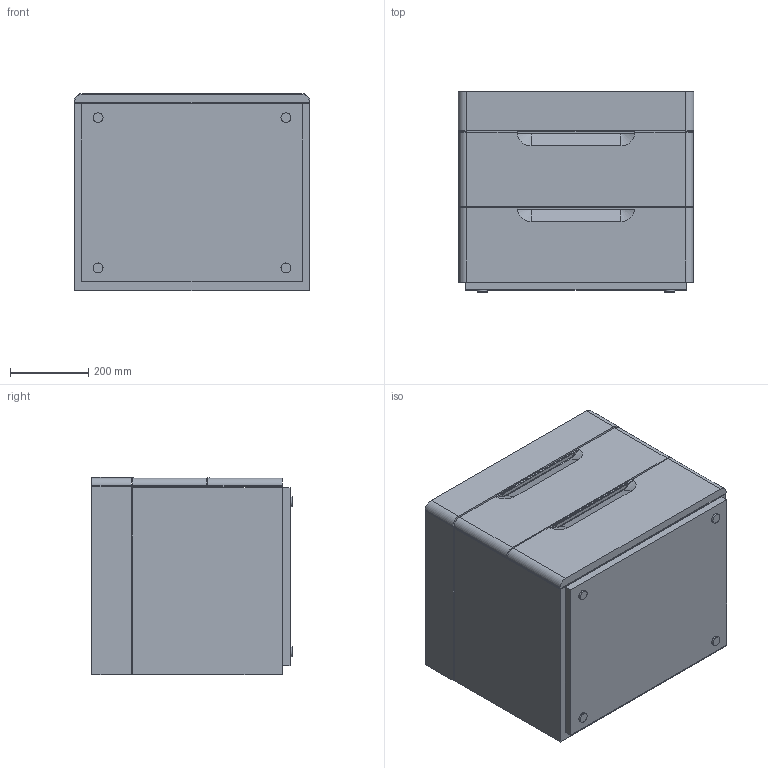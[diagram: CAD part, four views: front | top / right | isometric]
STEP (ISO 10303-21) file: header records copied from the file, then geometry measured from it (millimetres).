
FILE_DESCRIPTION (( 'STEP AP203' ), '1' );
FILE_NAME ('7070_Comodino con vassoio estraibile.STEP', '2022-08-31T07:44:54', ( '' ), ( '' ), 'SwSTEP 2.0', 'SolidWorks 2021', '' );
FILE_SCHEMA (( 'CONFIG_CONTROL_DESIGN' ));
Length unit declared in the file: millimetre
Products named in the file (8): Vassoio estraibile; UT164 - MANIGLIA - Step 03; 7070_Comodino con vassoio estraibile; Frontale vassoio estraibile; FRONTALE L.600 H.190; FRONTALE+MANIGLIA L.600; Comodino
Assembly tree (8 placements, depth 3):
  7070_Comodino con vassoio estraibile
    Comodino
    FRONTALE+MANIGLIA L.600  x2
      FRONTALE L.600 H.190
      UT164 - MANIGLIA - Step 03
    Vassoio estraibile
      Vassoio estraibile
      Frontale vassoio estraibile
Bounding box: 603 x 511.5 x 504 mm (x, y, z)
Volume: 128570331.3 mm3; surface area: 4602996.1 mm2
Topology: 12 solids, 12 shells, 260 faces, 648 edges, 428 vertices
Faces by surface type: plane 134, cylinder 54, bspline 48, cone 24
Entity records: 8006 total; most frequent: CARTESIAN_POINT 3516, ORIENTED_EDGE 780, DIRECTION 704, EDGE_CURVE 390, VERTEX_POINT 258, AXIS2_PLACEMENT_3D 240, LINE 224, VECTOR 224
